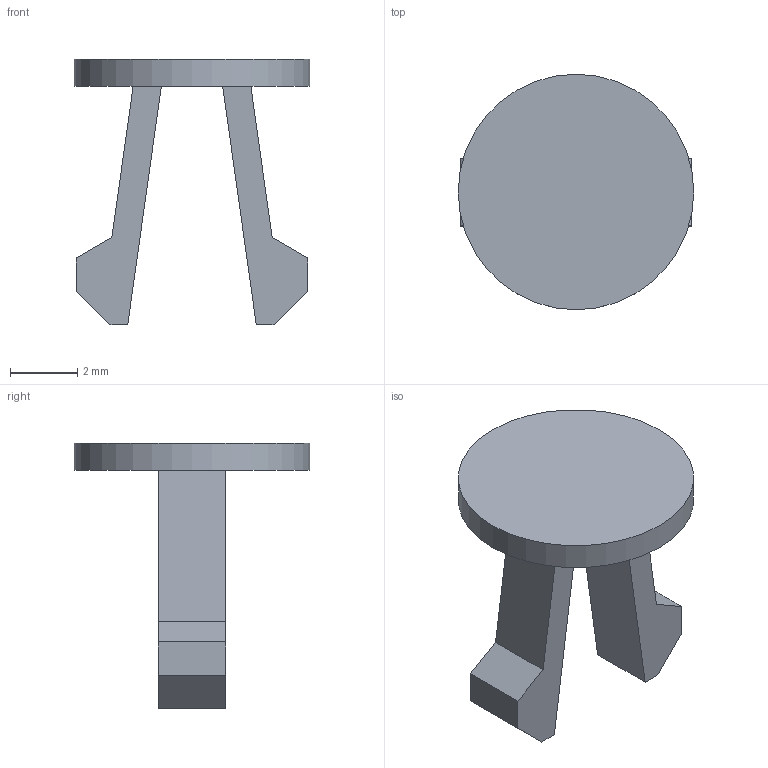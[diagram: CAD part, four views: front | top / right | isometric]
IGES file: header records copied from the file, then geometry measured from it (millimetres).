
Start section: Data from Parasolid IGES Translator 20.0.26, Copyright(c) 2006 Siemens P LM Software. All Rights Reserved.
Global section: file name: 9298858.igs; native system: By Siemens PLM Incorporated; preprocessor: XPlus GENERIC/IGES 20.0.26; author: Noname; organization: Noname; date: 20210826.155004; units: millimetre
Bounding box: 7 x 7 x 7.9 mm (x, y, z)
Surface area: 184.3 mm2 (no closed solid volume)
Topology: 0 solids, 0 shells, 19 faces, 90 edges, 88 vertices
Faces by surface type: extrusion 18, revolution 1
